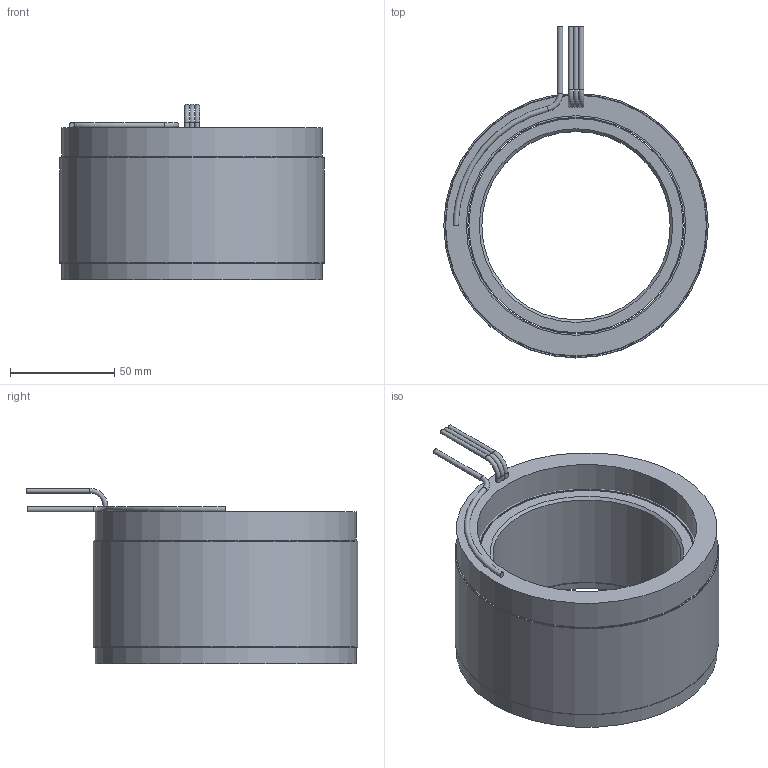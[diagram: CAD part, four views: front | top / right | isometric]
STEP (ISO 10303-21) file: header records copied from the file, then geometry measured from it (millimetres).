
FILE_DESCRIPTION (( 'STEP AP214' ), '1' );
FILE_NAME ('6100396-06.STEP', '2020-12-15T18:10:54', ( '' ), ( '' ), 'SwSTEP 2.0', 'SolidWorks 2016', '' );
FILE_SCHEMA (( 'AUTOMOTIVE_DESIGN' ));
Length unit declared in the file: inch
Products named in the file (10): 4500562-XX_4500562-06; COMP4500562-XX(COIL)_COMP4500562-06(COIL); 4250384-XX_4250384-06; 4400105-00; 4450193-XX_4450193-06; 4150182-XX_4150182-06; 4600569-00; 6100396-06
Assembly tree (10 placements, depth 4):
  6100396-06
    4250384-XX_4250384-06
      4150182-XX_4150182-06
    4500562-XX_4500562-06
      4450193-XX_4450193-06
        4450193-XX_4450193-06
        4400105-00
        4400105-00
        4600569-00  x2
      COMP4500562-XX(COIL)_COMP4500562-06(COIL)
Bounding box: 127 x 159.26 x 84.2 mm (x, y, z)
Volume: 573216.8 mm3; surface area: 174253.7 mm2
Topology: 8 solids, 8 shells, 47 faces, 74 edges, 46 vertices
Faces by surface type: cylinder 21, plane 19, torus 5, cone 2
Full cylindrical faces by diameter (mm): 2.286 x6, 2.54 x1, 90.424 x1, 102.87 x1, 103.886 x5, 105.41 x1, 125.222 x1, 125.73 x2, 127 x3
Entity records: 1305 total; most frequent: DIRECTION 202, CARTESIAN_POINT 143, AXIS2_PLACEMENT_3D 101, EDGE_LOOP 84, ORIENTED_EDGE 84, FACE_OUTER_BOUND 67, ADVANCED_FACE 43, VERTEX_POINT 42
